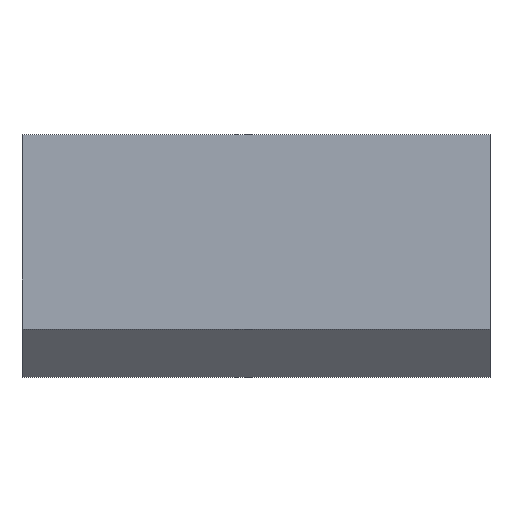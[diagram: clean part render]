
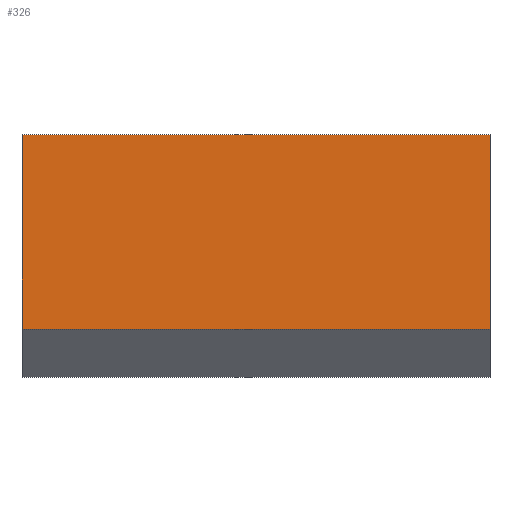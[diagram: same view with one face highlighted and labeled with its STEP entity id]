
A CAD part, front view. The second image highlights one B-rep face of the part: STEP entity #326.
In plain terms, the highlighted planar face has unit normal (0, -1, 0).
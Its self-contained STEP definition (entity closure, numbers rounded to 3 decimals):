
#22=DIRECTION('',(0.,0.,-1.));
#23=VECTOR('',#22,415.);
#24=CARTESIAN_POINT('',(-499.,0.,0.));
#25=LINE('',#24,#23);
#42=DIRECTION('',(1.,0.,0.));
#43=VECTOR('',#42,998.);
#44=CARTESIAN_POINT('',(-499.,0.,0.));
#45=LINE('',#44,#43);
#106=DIRECTION('',(1.,0.,0.));
#107=VECTOR('',#106,998.);
#108=CARTESIAN_POINT('',(-499.,0.,-415.));
#109=LINE('',#108,#107);
#110=DIRECTION('',(0.,0.,-1.));
#111=VECTOR('',#110,415.);
#112=CARTESIAN_POINT('',(499.,0.,0.));
#113=LINE('',#112,#111);
#226=CARTESIAN_POINT('',(-499.,0.,0.));
#227=CARTESIAN_POINT('',(-499.,0.,-415.));
#228=VERTEX_POINT('',#226);
#229=VERTEX_POINT('',#227);
#236=CARTESIAN_POINT('',(499.,0.,0.));
#237=CARTESIAN_POINT('',(499.,0.,-415.));
#238=VERTEX_POINT('',#236);
#239=VERTEX_POINT('',#237);
#312=CARTESIAN_POINT('',(-499.,0.,0.));
#313=DIRECTION('',(0.,-1.,0.));
#314=DIRECTION('',(0.,0.,-1.));
#315=AXIS2_PLACEMENT_3D('',#312,#313,#314);
#316=PLANE('',#315);
#317=ORIENTED_EDGE('',*,*,#299,.F.);
#319=ORIENTED_EDGE('',*,*,#318,.T.);
#321=ORIENTED_EDGE('',*,*,#320,.T.);
#323=ORIENTED_EDGE('',*,*,#322,.F.);
#324=EDGE_LOOP('',(#317,#319,#321,#323));
#325=FACE_OUTER_BOUND('',#324,.F.);
#299=EDGE_CURVE('',#228,#229,#25,.T.);
#318=EDGE_CURVE('',#228,#238,#45,.T.);
#320=EDGE_CURVE('',#238,#239,#113,.T.);
#322=EDGE_CURVE('',#229,#239,#109,.T.);
#326=ADVANCED_FACE('',(#325),#316,.T.);
